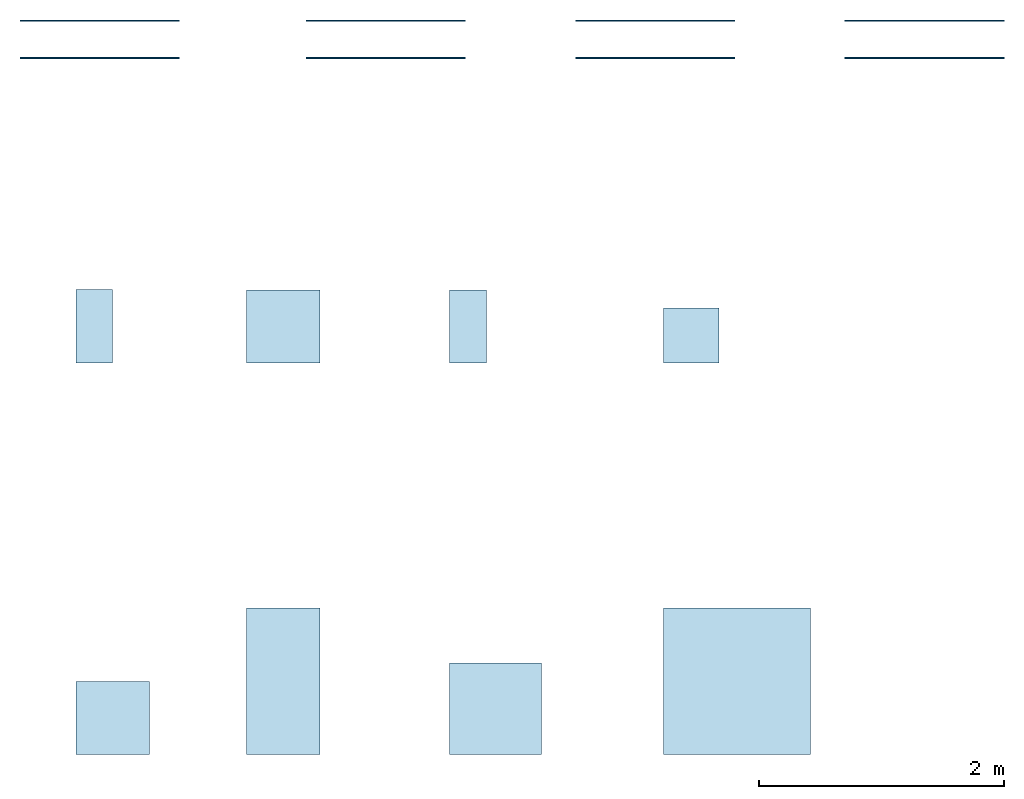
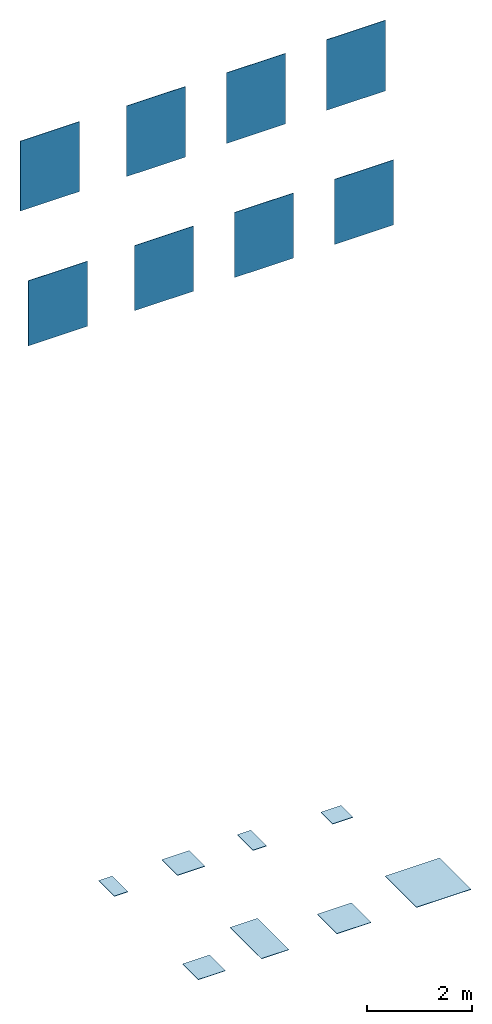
# One storey: 8 slabs, 8 walls.
"""IFC2X3 building model written with IfcOpenShell, lengths in millimetres."""

from ifc_helpers import new_model, entity, si_unit, converted_unit, derived_unit, direction, frame, frame_2d, origin, origin_2d_with_axis, place, context, subcontext, project, spatial, rectangle, extrude, material, layer, layer_set, layer_usage, type_object, element, save


model = new_model("IFC2X3")

# Units and contexts
model_context = context("Model", 3, precision=0.01, world=origin(), true_north=direction((6.12303176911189e-17, 1.0)))
body_context = subcontext(model_context, "Body", "Model", "MODEL_VIEW")
ifc_project = project(units=[si_unit("LENGTHUNIT", "METRE", prefix="MILLI"), si_unit("AREAUNIT", "SQUARE_METRE"), si_unit("VOLUMEUNIT", "CUBIC_METRE"), converted_unit("PLANEANGLEUNIT", "DEGREE", entity("IfcRatioMeasure", 0.0174532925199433), si_unit("PLANEANGLEUNIT", "RADIAN"), dimensions=[0, 0, 0, 0, 0, 0, 0]), si_unit("MASSUNIT", "GRAM", prefix="KILO"), derived_unit("MASSDENSITYUNIT", [(si_unit("MASSUNIT", "GRAM", prefix="KILO"), 1), (si_unit("LENGTHUNIT", "METRE"), -3)]), derived_unit("MOMENTOFINERTIAUNIT", [(si_unit("LENGTHUNIT", "METRE"), 4)]), si_unit("TIMEUNIT", "SECOND"), si_unit("FREQUENCYUNIT", "HERTZ"), si_unit("THERMODYNAMICTEMPERATUREUNIT", "DEGREE_CELSIUS"), derived_unit("THERMALTRANSMITTANCEUNIT", [(si_unit("MASSUNIT", "GRAM", prefix="KILO"), 1), (si_unit("THERMODYNAMICTEMPERATUREUNIT", "KELVIN"), -1), (si_unit("TIMEUNIT", "SECOND"), -3)]), derived_unit("VOLUMETRICFLOWRATEUNIT", [(si_unit("LENGTHUNIT", "METRE"), 3), (si_unit("TIMEUNIT", "SECOND"), -1)]), si_unit("ELECTRICCURRENTUNIT", "AMPERE"), si_unit("ELECTRICVOLTAGEUNIT", "VOLT"), si_unit("POWERUNIT", "WATT"), si_unit("FORCEUNIT", "NEWTON", prefix="KILO"), si_unit("ILLUMINANCEUNIT", "LUX"), si_unit("LUMINOUSFLUXUNIT", "LUMEN"), si_unit("LUMINOUSINTENSITYUNIT", "CANDELA"), derived_unit("USERDEFINED", [(si_unit("MASSUNIT", "GRAM", prefix="KILO"), -1), (si_unit("LENGTHUNIT", "METRE"), -2), (si_unit("TIMEUNIT", "SECOND"), 3), (si_unit("LUMINOUSFLUXUNIT", "LUMEN"), 1)]), derived_unit("LINEARVELOCITYUNIT", [(si_unit("LENGTHUNIT", "METRE"), 1), (si_unit("TIMEUNIT", "SECOND"), -1)]), si_unit("PRESSUREUNIT", "PASCAL"), derived_unit("USERDEFINED", [(si_unit("LENGTHUNIT", "METRE"), -2), (si_unit("MASSUNIT", "GRAM", prefix="KILO"), 1), (si_unit("TIMEUNIT", "SECOND"), -2)]), derived_unit("LINEARFORCEUNIT", [(si_unit("MASSUNIT", "GRAM", prefix="KILO"), 1), (si_unit("LENGTHUNIT", "METRE"), 1), (si_unit("TIMEUNIT", "SECOND"), -2), (si_unit("LENGTHUNIT", "METRE"), -1)]), derived_unit("PLANARFORCEUNIT", [(si_unit("MASSUNIT", "GRAM", prefix="KILO"), 1), (si_unit("LENGTHUNIT", "METRE"), 1), (si_unit("TIMEUNIT", "SECOND"), -2), (si_unit("LENGTHUNIT", "METRE"), -2)])], contexts=[model_context])

# Site, building, storey
site_placement = place(None, origin())
site = spatial("IfcSite", under=ifc_project, at=site_placement, Name="Default", CompositionType="ELEMENT")
building_placement = place(site_placement, origin())
building = spatial("IfcBuilding", under=site, at=building_placement, CompositionType="ELEMENT")
storey_placement = place(building_placement, origin())
storey = spatial("IfcBuildingStorey", under=building, at=storey_placement, Name="Level 0", CompositionType="ELEMENT", Elevation=0.0)

# Slabs
ifc_material_1 = material(Name="Creos-Cookie-30x60 ND01")
ifc_layer_1 = layer(ifc_material_1, 9.0)
ifc_material_2 = material(Name="<Unnamed>")
ifc_layer_2 = layer(ifc_material_2, 1.0)
ifc_layer_set_1 = layer_set([ifc_layer_1, ifc_layer_2], Name="Floor:Floor_Tiles_Refin-Creos-Cookie-30x60 ND01")
ifc_layer_usage_1 = layer_usage(ifc_layer_set_1, "AXIS3", "POSITIVE", 0.0)
slab_type_1 = type_object("IfcSlabType", Name="Floor:Floor_Tiles_Refin-Creos-Cookie-30x60 ND01", PredefinedType="FLOOR", material=ifc_layer_set_1)
slab_1_placement = place(storey_placement, origin())
element("IfcSlab", 1, at=slab_1_placement, inside=storey, type_object=slab_type_1, material=ifc_layer_usage_1, Name="Floor:Floor_Tiles_Refin-Creos-Cookie-30x60 ND01", ObjectType="Floor:Floor_Tiles_Refin-Creos-Cookie-30x60 ND01", PredefinedType="FLOOR", context=body_context, shape_type="SweptSolid", body=[
    extrude(rectangle(XDim=600.0, YDim=300.0, at=frame_2d((0.0, -5.40012479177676e-13), x_axis=(1.0, 0.0))), frame((6524.37520617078, 5639.4623742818, 0.0), z_axis=(0.0, 0.0, -1.0), x_axis=(0.0, 1.0, 0.0)), (0.0, 0.0, 1.0), 10.0),
])
ifc_material_3 = material(Name="Creos-Cookie-60x60 NA52")
ifc_layer_3 = layer(ifc_material_3, 9.0)
ifc_layer_4 = layer(ifc_material_2, 1.0)
ifc_layer_set_2 = layer_set([ifc_layer_3, ifc_layer_4], Name="Floor:Floor_Tiles_Refin-Creos-Cookie-60x60 NA52")
ifc_layer_usage_2 = layer_usage(ifc_layer_set_2, "AXIS3", "POSITIVE", 0.0)
slab_type_2 = type_object("IfcSlabType", Name="Floor:Floor_Tiles_Refin-Creos-Cookie-60x60 NA52", PredefinedType="FLOOR", material=ifc_layer_set_2)
slab_2_placement = place(storey_placement, origin())
element("IfcSlab", 2, at=slab_2_placement, inside=storey, type_object=slab_type_2, material=ifc_layer_usage_2, Name="Floor:Floor_Tiles_Refin-Creos-Cookie-60x60 NA52", ObjectType="Floor:Floor_Tiles_Refin-Creos-Cookie-60x60 NA52", PredefinedType="FLOOR", context=body_context, shape_type="SweptSolid", body=[
    extrude(rectangle(XDim=600.0, YDim=600.0, at=origin_2d_with_axis()), frame((8067.39240545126, 5638.41920639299, 0.0), z_axis=(0.0, 0.0, -1.0), x_axis=(0.0, 1.0, 0.0)), (0.0, 0.0, 1.0), 10.0),
])
ifc_material_4 = material(Name="Creos-Cookie-Soft-30x60 ND02")
ifc_layer_5 = layer(ifc_material_4, 9.0)
ifc_layer_6 = layer(ifc_material_2, 1.0)
ifc_layer_set_3 = layer_set([ifc_layer_5, ifc_layer_6], Name="Floor:Floor_Tiles_Refin-Creos-Cookie-Soft-30x60 ND02")
ifc_layer_usage_3 = layer_usage(ifc_layer_set_3, "AXIS3", "POSITIVE", 0.0)
slab_type_3 = type_object("IfcSlabType", Name="Floor:Floor_Tiles_Refin-Creos-Cookie-Soft-30x60 ND02", PredefinedType="FLOOR", material=ifc_layer_set_3)
slab_3_placement = place(storey_placement, origin())
element("IfcSlab", 3, at=slab_3_placement, inside=storey, type_object=slab_type_3, material=ifc_layer_usage_3, Name="Floor:Floor_Tiles_Refin-Creos-Cookie-Soft-30x60 ND02", ObjectType="Floor:Floor_Tiles_Refin-Creos-Cookie-Soft-30x60 ND02", PredefinedType="FLOOR", context=body_context, shape_type="SweptSolid", body=[
    extrude(rectangle(XDim=600.0, YDim=300.000000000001, at=origin_2d_with_axis()), frame((9577.18614186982, 5638.41920639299, 0.0), z_axis=(0.0, 0.0, -1.0), x_axis=(0.0, 1.0, 0.0)), (0.0, 0.0, 1.0), 10.0),
])
ifc_material_5 = material(Name="Creos-Cookie-Soft-60x60 NA53")
ifc_layer_7 = layer(ifc_material_5, 9.0)
ifc_layer_8 = layer(ifc_material_2, 1.0)
ifc_layer_set_4 = layer_set([ifc_layer_7, ifc_layer_8], Name="Floor:Floor_Tiles_Refin-Creos-Cookie-Soft-60x60 NA53")
ifc_layer_usage_4 = layer_usage(ifc_layer_set_4, "AXIS3", "POSITIVE", 0.0)
slab_type_4 = type_object("IfcSlabType", Name="Floor:Floor_Tiles_Refin-Creos-Cookie-Soft-60x60 NA53", PredefinedType="FLOOR", material=ifc_layer_set_4)
slab_4_placement = place(storey_placement, origin())
element("IfcSlab", 4, at=slab_4_placement, inside=storey, type_object=slab_type_4, material=ifc_layer_usage_4, Name="Floor:Floor_Tiles_Refin-Creos-Cookie-Soft-60x60 NA53", ObjectType="Floor:Floor_Tiles_Refin-Creos-Cookie-Soft-60x60 NA53", PredefinedType="FLOOR", context=body_context, shape_type="SweptSolid", body=[
    extrude(rectangle(XDim=600.0, YDim=600.0, at=frame_2d((0.0, 1.08002495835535e-12), x_axis=(1.0, 0.0))), frame((6674.37520617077, 2439.46237428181, 0.0), z_axis=(0.0, 0.0, -1.0), x_axis=(0.0, 1.0, 0.0)), (0.0, 0.0, 1.0), 10.0),
])
ifc_material_6 = material(Name="Creos-Cookie-Soft-75x75 NU52")
ifc_layer_9 = layer(ifc_material_6, 9.0)
ifc_layer_10 = layer(ifc_material_2, 1.0)
ifc_layer_set_5 = layer_set([ifc_layer_9, ifc_layer_10], Name="Floor:Floor_Tiles_Refin-Creos-Cookie-Soft-75x75 NU52")
ifc_layer_usage_5 = layer_usage(ifc_layer_set_5, "AXIS3", "POSITIVE", 0.0)
slab_type_5 = type_object("IfcSlabType", Name="Floor:Floor_Tiles_Refin-Creos-Cookie-Soft-75x75 NU52", PredefinedType="FLOOR", material=ifc_layer_set_5)
slab_5_placement = place(storey_placement, origin())
element("IfcSlab", 5, at=slab_5_placement, inside=storey, type_object=slab_type_5, material=ifc_layer_usage_5, Name="Floor:Floor_Tiles_Refin-Creos-Cookie-Soft-75x75 NU52", ObjectType="Floor:Floor_Tiles_Refin-Creos-Cookie-Soft-75x75 NU52", PredefinedType="FLOOR", context=body_context, shape_type="SweptSolid", body=[
    extrude(rectangle(XDim=750.0, YDim=750.000000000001, at=frame_2d((-2.55795384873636e-13, 1.08002495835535e-12), x_axis=(1.0, 0.0))), frame((9802.18614186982, 2514.4623742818, 0.0), z_axis=(0.0, 0.0, -1.0), x_axis=(0.0, 1.0, 0.0)), (0.0, 0.0, 1.0), 10.0),
])
ifc_material_7 = material(Name="Creos-Cookie-Soft-45x45 ND68")
ifc_layer_11 = layer(ifc_material_7, 9.5)
ifc_layer_12 = layer(ifc_material_2, 1.0)
ifc_layer_set_6 = layer_set([ifc_layer_11, ifc_layer_12], Name="Floor:Floor_Tiles_Refin-Creos-Cookie-Soft-45x45 ND68")
ifc_layer_usage_6 = layer_usage(ifc_layer_set_6, "AXIS3", "POSITIVE", 0.0)
slab_type_6 = type_object("IfcSlabType", Name="Floor:Floor_Tiles_Refin-Creos-Cookie-Soft-45x45 ND68", PredefinedType="FLOOR", material=ifc_layer_set_6)
slab_6_placement = place(storey_placement, origin())
element("IfcSlab", 6, at=slab_6_placement, inside=storey, type_object=slab_type_6, material=ifc_layer_usage_6, Name="Floor:Floor_Tiles_Refin-Creos-Cookie-Soft-45x45 ND68", ObjectType="Floor:Floor_Tiles_Refin-Creos-Cookie-Soft-45x45 ND68", PredefinedType="FLOOR", context=body_context, shape_type="SweptSolid", body=[
    extrude(rectangle(XDim=450.000000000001, YDim=449.999999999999, at=frame_2d((-5.40012479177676e-13, -1.08002495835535e-12), x_axis=(1.0, 0.0))), frame((11402.1861418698, 5563.41920639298, 0.0), z_axis=(0.0, 0.0, -1.0), x_axis=(0.0, 1.0, 0.0)), (0.0, 0.0, 1.0), 10.5),
])
ifc_material_8 = material(Name="Creos-Cookie-Soft-60x120 NA64")
ifc_layer_13 = layer(ifc_material_8, 9.0)
ifc_layer_14 = layer(ifc_material_2, 1.0)
ifc_layer_set_7 = layer_set([ifc_layer_13, ifc_layer_14], Name="Floor:Floor_Tiles_Refin-Creos-Cookie-Soft-60x120 NA64")
ifc_layer_usage_7 = layer_usage(ifc_layer_set_7, "AXIS3", "POSITIVE", 0.0)
slab_type_7 = type_object("IfcSlabType", Name="Floor:Floor_Tiles_Refin-Creos-Cookie-Soft-60x120 NA64", PredefinedType="FLOOR", material=ifc_layer_set_7)
slab_7_placement = place(storey_placement, origin())
element("IfcSlab", 7, at=slab_7_placement, inside=storey, type_object=slab_type_7, material=ifc_layer_usage_7, Name="Floor:Floor_Tiles_Refin-Creos-Cookie-Soft-60x120 NA64", ObjectType="Floor:Floor_Tiles_Refin-Creos-Cookie-Soft-60x120 NA64", PredefinedType="FLOOR", context=body_context, shape_type="SweptSolid", body=[
    extrude(rectangle(XDim=1200.0, YDim=600.0, at=origin_2d_with_axis()), frame((8067.39240545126, 2739.46237428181, 0.0), z_axis=(0.0, 0.0, -1.0), x_axis=(0.0, 1.0, 0.0)), (0.0, 0.0, 1.0), 10.0),
])
ifc_material_9 = material(Name="Creos-Cookie-Soft-120x120 MK22")
ifc_layer_15 = layer(ifc_material_9, 9.0)
ifc_layer_16 = layer(ifc_material_2, 1.0)
ifc_layer_set_8 = layer_set([ifc_layer_15, ifc_layer_16], Name="Floor:Floor_Tiles_Refin-Creos-Cookie-Soft-120x120 MK22")
ifc_layer_usage_8 = layer_usage(ifc_layer_set_8, "AXIS3", "POSITIVE", 0.0)
slab_type_8 = type_object("IfcSlabType", Name="Floor:Floor_Tiles_Refin-Creos-Cookie-Soft-120x120 MK22", PredefinedType="FLOOR", material=ifc_layer_set_8)
slab_8_placement = place(storey_placement, origin())
element("IfcSlab", 8, at=slab_8_placement, inside=storey, type_object=slab_type_8, material=ifc_layer_usage_8, Name="Floor:Floor_Tiles_Refin-Creos-Cookie-Soft-120x120 MK22", ObjectType="Floor:Floor_Tiles_Refin-Creos-Cookie-Soft-120x120 MK22", PredefinedType="FLOOR", context=body_context, shape_type="SweptSolid", body=[
    extrude(rectangle(XDim=1200.0, YDim=1200.0, at=origin_2d_with_axis()), frame((11777.1861418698, 2739.46237428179, 0.0), z_axis=(0.0, 0.0, -1.0), x_axis=(0.0, 1.0, 0.0)), (0.0, 0.0, 1.0), 10.0),
])

# Walls
ifc_layer_17 = layer(ifc_material_2, 1.0)
ifc_layer_18 = layer(ifc_material_3, 9.0)
ifc_layer_set_9 = layer_set([ifc_layer_17, ifc_layer_18], Name="Basic Wall:Wall_Tiles_Refin-Creos-Cookie-60x60 NA52")
ifc_layer_usage_9 = layer_usage(ifc_layer_set_9, "AXIS2", "NEGATIVE", 5.0)
wall_type_1 = type_object("IfcWallType", Name="Basic Wall:Wall_Tiles_Refin-Creos-Cookie-60x60 NA52", PredefinedType="STANDARD", material=ifc_layer_set_9)
wall_1_placement = place(storey_placement, frame((8257.37520617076, 8137.38386313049, 14387.6770443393)))
element("IfcWallStandardCase", 9, at=wall_1_placement, inside=storey, type_object=wall_type_1, material=ifc_layer_usage_9, Name="Basic Wall:Wall_Tiles_Refin-Creos-Cookie-60x60 NA52", ObjectType="Basic Wall:Wall_Tiles_Refin-Creos-Cookie-60x60 NA52", context=body_context, shape_type="SweptSolid", body=[
    extrude(rectangle(XDim=1300.0, YDim=9.99999999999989, at=frame_2d((650.0, 7.63833440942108e-14), x_axis=(-1.0, 0.0))), origin(), (0.0, 0.0, 1.0), 1641.74173522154),
])
ifc_layer_19 = layer(ifc_material_2, 1.0)
ifc_layer_20 = layer(ifc_material_4, 9.0)
ifc_layer_set_10 = layer_set([ifc_layer_19, ifc_layer_20], Name="Basic Wall:Wall_Tiles_Refin-Creos-Cookie-Soft-30x60 ND02")
ifc_layer_usage_10 = layer_usage(ifc_layer_set_10, "AXIS2", "NEGATIVE", 5.0)
wall_type_2 = type_object("IfcWallType", Name="Basic Wall:Wall_Tiles_Refin-Creos-Cookie-Soft-30x60 ND02", PredefinedType="STANDARD", material=ifc_layer_set_10)
wall_2_placement = place(storey_placement, frame((10457.3752061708, 8137.38386313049, 14387.6770443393)))
element("IfcWallStandardCase", 10, at=wall_2_placement, inside=storey, type_object=wall_type_2, material=ifc_layer_usage_10, Name="Basic Wall:Wall_Tiles_Refin-Creos-Cookie-Soft-30x60 ND02", ObjectType="Basic Wall:Wall_Tiles_Refin-Creos-Cookie-Soft-30x60 ND02", context=body_context, shape_type="SweptSolid", body=[
    extrude(rectangle(XDim=1300.0, YDim=9.99999999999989, at=frame_2d((650.0, 7.63833440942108e-14), x_axis=(-1.0, 0.0))), origin(), (0.0, 0.0, 1.0), 1641.74173522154),
])
ifc_layer_21 = layer(ifc_material_2, 1.0)
ifc_layer_22 = layer(ifc_material_1, 9.0)
ifc_layer_set_11 = layer_set([ifc_layer_21, ifc_layer_22], Name="Basic Wall:Wall_Tiles_Refin-Creos-Cookie-30x60 ND01")
ifc_layer_usage_11 = layer_usage(ifc_layer_set_11, "AXIS2", "NEGATIVE", 5.0)
wall_type_3 = type_object("IfcWallType", Name="Basic Wall:Wall_Tiles_Refin-Creos-Cookie-30x60 ND01", PredefinedType="STANDARD", material=ifc_layer_set_11)
wall_3_placement = place(storey_placement, frame((5917.37520617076, 8137.38386313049, 14403.726734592)))
element("IfcWallStandardCase", 11, at=wall_3_placement, inside=storey, type_object=wall_type_3, material=ifc_layer_usage_11, Name="Basic Wall:Wall_Tiles_Refin-Creos-Cookie-30x60 ND01", ObjectType="Basic Wall:Wall_Tiles_Refin-Creos-Cookie-30x60 ND01", context=body_context, shape_type="SweptSolid", body=[
    extrude(rectangle(XDim=1300.0, YDim=9.99999999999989, at=frame_2d((650.0, 7.63833440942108e-14), x_axis=(-1.0, 0.0))), origin(), (0.0, 0.0, 1.0), 1625.69204496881),
])
ifc_layer_23 = layer(ifc_material_2, 1.0)
ifc_layer_24 = layer(ifc_material_5, 9.0)
ifc_layer_set_12 = layer_set([ifc_layer_23, ifc_layer_24], Name="Basic Wall:Wall_Tiles_Refin-Creos-Cookie-Soft-60x60 NA53")
ifc_layer_usage_12 = layer_usage(ifc_layer_set_12, "AXIS2", "NEGATIVE", 5.0)
wall_type_4 = type_object("IfcWallType", Name="Basic Wall:Wall_Tiles_Refin-Creos-Cookie-Soft-60x60 NA53", PredefinedType="STANDARD", material=ifc_layer_set_12)
wall_4_placement = place(storey_placement, frame((5917.37520617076, 7832.38386313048, 11452.5436262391)))
element("IfcWallStandardCase", 12, at=wall_4_placement, inside=storey, type_object=wall_type_4, material=ifc_layer_usage_12, Name="Basic Wall:Wall_Tiles_Refin-Creos-Cookie-Soft-60x60 NA53", ObjectType="Basic Wall:Wall_Tiles_Refin-Creos-Cookie-Soft-60x60 NA53", context=body_context, shape_type="SweptSolid", body=[
    extrude(rectangle(XDim=1300.0, YDim=9.99999999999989, at=frame_2d((650.0, 0.0), x_axis=(-1.0, 0.0))), origin(), (0.0, 0.0, 1.0), 1513.19855655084),
])
ifc_layer_25 = layer(ifc_material_2, 1.0)
ifc_layer_26 = layer(ifc_material_8, 9.0)
ifc_layer_set_13 = layer_set([ifc_layer_25, ifc_layer_26], Name="Basic Wall:Wall_Tiles_Refin-Creos-Cookie-Soft-60x120 NA64")
ifc_layer_usage_13 = layer_usage(ifc_layer_set_13, "AXIS2", "NEGATIVE", 5.0)
wall_type_5 = type_object("IfcWallType", Name="Basic Wall:Wall_Tiles_Refin-Creos-Cookie-Soft-60x120 NA64", PredefinedType="STANDARD", material=ifc_layer_set_13)
wall_5_placement = place(storey_placement, frame((8257.37520617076, 7832.38386313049, 11452.5436262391)))
element("IfcWallStandardCase", 13, at=wall_5_placement, inside=storey, type_object=wall_type_5, material=ifc_layer_usage_13, Name="Basic Wall:Wall_Tiles_Refin-Creos-Cookie-Soft-60x120 NA64", ObjectType="Basic Wall:Wall_Tiles_Refin-Creos-Cookie-Soft-60x120 NA64", context=body_context, shape_type="SweptSolid", body=[
    extrude(rectangle(XDim=1300.0, YDim=9.99999999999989, at=frame_2d((650.0, 0.0), x_axis=(-1.0, 0.0))), origin(), (0.0, 0.0, 1.0), 1513.19855655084),
])
ifc_layer_27 = layer(ifc_material_2, 1.0)
ifc_layer_28 = layer(ifc_material_6, 9.0)
ifc_layer_set_14 = layer_set([ifc_layer_27, ifc_layer_28], Name="Basic Wall:Wall_Tiles_Refin-Creos-Cookie-Soft-75x75 NU52")
ifc_layer_usage_14 = layer_usage(ifc_layer_set_14, "AXIS2", "NEGATIVE", 5.0)
wall_type_6 = type_object("IfcWallType", Name="Basic Wall:Wall_Tiles_Refin-Creos-Cookie-Soft-75x75 NU52", PredefinedType="STANDARD", material=ifc_layer_set_14)
wall_6_placement = place(storey_placement, frame((10457.3752061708, 7832.38386313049, 11452.5436262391)))
element("IfcWallStandardCase", 14, at=wall_6_placement, inside=storey, type_object=wall_type_6, material=ifc_layer_usage_14, Name="Basic Wall:Wall_Tiles_Refin-Creos-Cookie-Soft-75x75 NU52", ObjectType="Basic Wall:Wall_Tiles_Refin-Creos-Cookie-Soft-75x75 NU52", context=body_context, shape_type="SweptSolid", body=[
    extrude(rectangle(XDim=1300.0, YDim=9.99999999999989, at=frame_2d((650.000000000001, 0.0), x_axis=(-1.0, 0.0))), origin(), (0.0, 0.0, 1.0), 1513.19855655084),
])
ifc_layer_29 = layer(ifc_material_2, 1.0)
ifc_layer_30 = layer(ifc_material_7, 9.5)
ifc_layer_set_15 = layer_set([ifc_layer_29, ifc_layer_30], Name="Basic Wall:Wall_Tiles_Refin-Creos-Cookie-Soft-45x45 ND68")
ifc_layer_usage_15 = layer_usage(ifc_layer_set_15, "AXIS2", "NEGATIVE", 5.25)
wall_type_7 = type_object("IfcWallType", Name="Basic Wall:Wall_Tiles_Refin-Creos-Cookie-Soft-45x45 ND68", PredefinedType="STANDARD", material=ifc_layer_set_15)
wall_7_placement = place(storey_placement, frame((12657.3752061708, 8137.3838631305, 14387.6770443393)))
element("IfcWallStandardCase", 15, at=wall_7_placement, inside=storey, type_object=wall_type_7, material=ifc_layer_usage_15, Name="Basic Wall:Wall_Tiles_Refin-Creos-Cookie-Soft-45x45 ND68", ObjectType="Basic Wall:Wall_Tiles_Refin-Creos-Cookie-Soft-45x45 ND68", context=body_context, shape_type="SweptSolid", body=[
    extrude(rectangle(XDim=1300.0, YDim=10.4999999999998, at=frame_2d((650.0, 7.63833440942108e-14), x_axis=(-1.0, 0.0))), origin(), (0.0, 0.0, 1.0), 1641.74173522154),
])
ifc_layer_31 = layer(ifc_material_2, 1.0)
ifc_layer_32 = layer(ifc_material_9, 9.0)
ifc_layer_set_16 = layer_set([ifc_layer_31, ifc_layer_32], Name="Basic Wall:Wall_Tiles_Refin-Creos-Cookie-Soft-120x120 MK22")
ifc_layer_usage_16 = layer_usage(ifc_layer_set_16, "AXIS2", "NEGATIVE", 5.0)
wall_type_8 = type_object("IfcWallType", Name="Basic Wall:Wall_Tiles_Refin-Creos-Cookie-Soft-120x120 MK22", PredefinedType="STANDARD", material=ifc_layer_set_16)
wall_8_placement = place(storey_placement, frame((12657.3752061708, 7832.3838631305, 11452.5436262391)))
element("IfcWallStandardCase", 16, at=wall_8_placement, inside=storey, type_object=wall_type_8, material=ifc_layer_usage_16, Name="Basic Wall:Wall_Tiles_Refin-Creos-Cookie-Soft-120x120 MK22", ObjectType="Basic Wall:Wall_Tiles_Refin-Creos-Cookie-Soft-120x120 MK22", context=body_context, shape_type="SweptSolid", body=[
    extrude(rectangle(XDim=1300.0, YDim=9.99999999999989, at=frame_2d((650.0, 0.0), x_axis=(-1.0, 0.0))), origin(), (0.0, 0.0, 1.0), 1513.19855655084),
])

save(model, "model.ifc")
